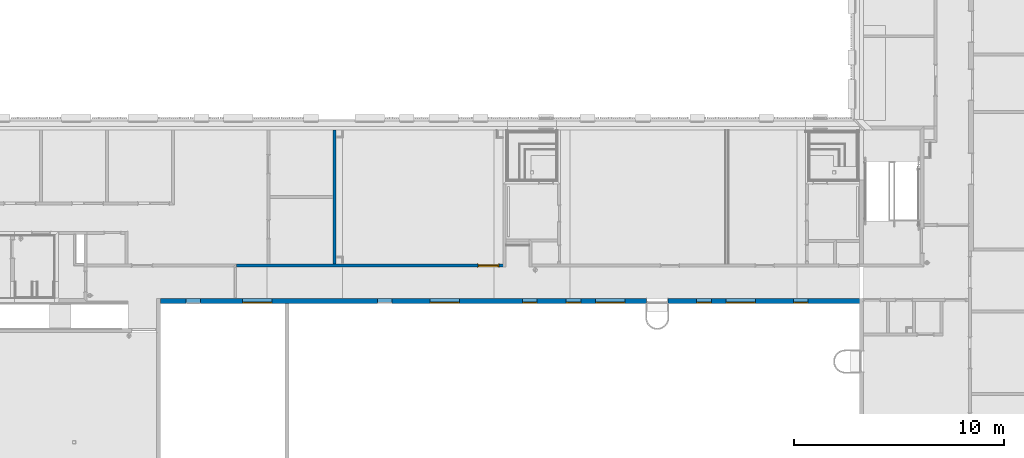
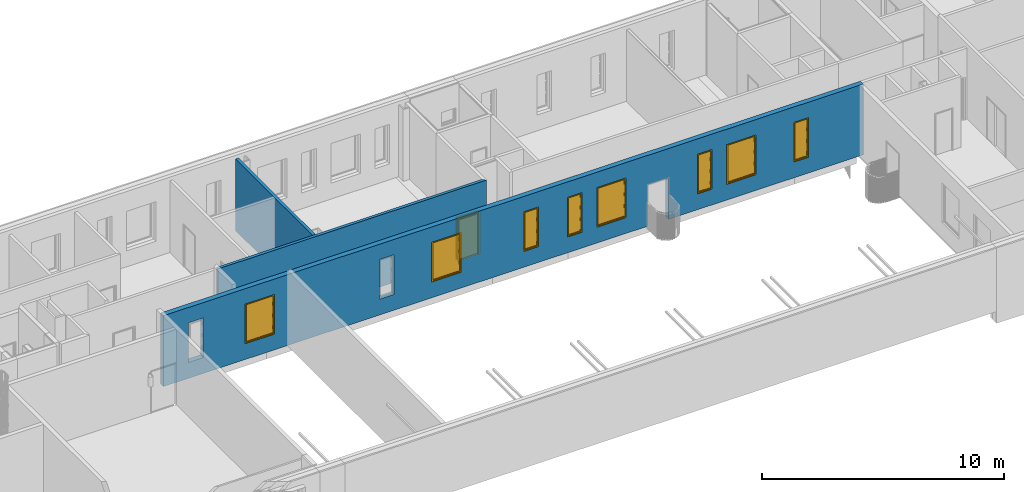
# One storey, part 6 of 100: 8 windows, 3 walls, 1 door, 12 openings.
"""IFC2X3 building model written with IfcOpenShell, lengths in millimetres."""

import ifcopenshell
import ifcopenshell.guid

model = None  # the IFC model being written
_history = None  # IfcOwnerHistory: only IFC2X3 demands one
_inside = {}  # id of a spatial element -> (the spatial element, [elements in it])
_under = {}  # id of a project, library or spatial element -> (it, [spatial elements below it])
_declared = {}  # id of a project -> (the project, [libraries it declares])
_typed = {}  # id of a type object -> (the type object, [elements of that type])
_made_of = {}  # id of a material, layer set ... -> (it, [elements and type objects made of it])


def new_model(schema):
    """Start an empty IFC model of exactly this schema.

    Asked for "IFC4X3", IfcOpenShell would pick the latest addendum, in which some entities
    have other attributes; the version numbers below select the first issue.
    IFC2X3 requires an IfcOwnerHistory on every rooted entity: one is made here for all.
    """
    global model, _history
    if schema == "IFC4X3":
        model = ifcopenshell.file(schema_version=(4, 3, 0, 0))
    else:
        model = ifcopenshell.file(schema=schema)
    _inside.clear()
    _under.clear()
    _declared.clear()
    _typed.clear()
    _made_of.clear()
    _history = None
    if model.schema == "IFC2X3":
        org = make("IfcOrganization", Name="unknown")
        user = make(
            "IfcPersonAndOrganization",
            ThePerson=make("IfcPerson", FamilyName="unknown"),
            TheOrganization=org,
        )
        app = make(
            "IfcApplication",
            ApplicationDeveloper=org,
            Version="unknown",
            ApplicationFullName="unknown",
            ApplicationIdentifier="unknown",
        )
        _history = make(
            "IfcOwnerHistory",
            OwningUser=user,
            OwningApplication=app,
            ChangeAction="ADDED",
            CreationDate=0,
        )
    return model


def make(cls, **values):
    """One entity of the class cls with the attributes given. An attribute that is None is left unset."""
    return model.create_entity(
        cls, **{name: value for name, value in values.items() if value is not None}
    )


def entity(cls, *values):
    """Any entity or typed value of the class cls, its attributes in the order of the schema. None: left unset."""
    e = model.create_entity(cls)
    for i, value in enumerate(values):
        if value is not None:
            e[i] = value
    return e


def rooted(cls, **values):
    """An entity with a GlobalId (a new one), such as an element, a storey or a relation."""
    return make(cls, GlobalId=ifcopenshell.guid.new(), OwnerHistory=_history, **values)


def si_unit(unit_type, name, prefix=None):
    """IfcSIUnit, for example si_unit("LENGTHUNIT", "METRE", prefix="MILLI")."""
    return make("IfcSIUnit", UnitType=unit_type, Prefix=prefix, Name=name)


def converted_unit(unit_type, name, factor, base, dimensions=None, offset=None):
    """IfcConversionBasedUnit, such as the inch: factor (a typed value) times the base unit."""
    return make(
        "IfcConversionBasedUnit"
        if offset is None
        else "IfcConversionBasedUnitWithOffset",
        ConversionOffset=offset,
        Dimensions=None
        if dimensions is None
        else entity("IfcDimensionalExponents", *dimensions),
        UnitType=unit_type,
        Name=name,
        ConversionFactor=make(
            "IfcMeasureWithUnit", ValueComponent=factor, UnitComponent=base
        ),
    )


def derived_unit(unit_type, elements):
    """IfcDerivedUnit: a product of units, each with its exponent."""
    return make(
        "IfcDerivedUnit",
        Elements=[
            make("IfcDerivedUnitElement", Unit=unit, Exponent=power)
            for unit, power in elements
        ],
        UnitType=unit_type,
    )


def money_unit(currency):
    """IfcMonetaryUnit."""
    return make("IfcMonetaryUnit", Currency=currency)


def assignment(units):
    """IfcUnitAssignment: the units of a project."""
    return None if units is None else make("IfcUnitAssignment", Units=units)


def point(xyz):
    """IfcCartesianPoint."""
    return None if xyz is None else make("IfcCartesianPoint", Coordinates=xyz)


def direction(xyz):
    """IfcDirection."""
    return None if xyz is None else make("IfcDirection", DirectionRatios=xyz)


def frame(location, z_axis=None, x_axis=None):
    """IfcAxis2Placement3D, a coordinate frame: its origin and axes. An axis left out is left unset."""
    return make(
        "IfcAxis2Placement3D",
        Location=point(location),
        Axis=direction(z_axis),
        RefDirection=direction(x_axis),
    )


def frame_2d(location, x_axis=None):
    """IfcAxis2Placement2D, a coordinate frame in the plane: its origin and x axis."""
    return make(
        "IfcAxis2Placement2D", Location=point(location), RefDirection=direction(x_axis)
    )


def origin_with_axes():
    """The frame at (0, 0, 0) with the z axis (0, 0, 1) and the x axis (1, 0, 0) written out."""
    return frame((0.0, 0.0, 0.0), z_axis=(0.0, 0.0, 1.0), x_axis=(1.0, 0.0, 0.0))


def origin_2d_with_axis():
    """The frame at (0, 0) in the plane with the x axis (1, 0) written out."""
    return frame_2d((0.0, 0.0), x_axis=(1.0, 0.0))


def place(relative_to, where):
    """IfcLocalPlacement: puts the frame where relative to a parent placement (None: the world)."""
    return make(
        "IfcLocalPlacement", PlacementRelTo=relative_to, RelativePlacement=where
    )


def context(
    kind, dimensions, precision=None, world=None, true_north=None, identifier=None
):
    """IfcGeometricRepresentationContext, for example the 3D "Model" context."""
    return make(
        "IfcGeometricRepresentationContext",
        ContextIdentifier=identifier,
        ContextType=kind,
        CoordinateSpaceDimension=dimensions,
        Precision=precision,
        WorldCoordinateSystem=world,
        TrueNorth=true_north,
    )


def subcontext(parent, identifier, kind, view, scale=None):
    """IfcGeometricRepresentationSubContext, for example "Body" below "Model"."""
    return make(
        "IfcGeometricRepresentationSubContext",
        ContextIdentifier=identifier,
        ContextType=kind,
        ParentContext=parent,
        TargetScale=scale,
        TargetView=view,
    )


def project(units=None, contexts=None):
    """IfcProject with its units and contexts."""
    return rooted(
        "IfcProject",
        Name="project",
        RepresentationContexts=contexts,
        UnitsInContext=assignment(units),
    )


def spatial(cls, under=None, at=None, **own):
    """A site, building, storey or space (cls), placed at a placement, below another one or the project."""
    s = rooted(cls, ObjectPlacement=at, **own)
    if under is not None:
        _under.setdefault(under.id(), (under, []))[1].append(s)
    return s


def polyline(points):
    """IfcPolyline through the points."""
    return make("IfcPolyline", Points=[point(p) for p in points])


def profile(cls, at=None, kind="AREA", **sizes):
    """A parametric profile (cls). Its sizes go by their IFC names, for example OverallWidth=200.0."""
    return make(cls, ProfileType=kind, Position=at, **sizes)


def rectangle(**sizes):
    """IfcRectangleProfileDef."""
    return profile("IfcRectangleProfileDef", **sizes)


def outline(outer, holes=None, kind="AREA"):
    """IfcArbitraryClosedProfileDef: a profile drawn as a closed curve; with holes, ...WithVoids."""
    if holes is None:
        return make("IfcArbitraryClosedProfileDef", ProfileType=kind, OuterCurve=outer)
    return make(
        "IfcArbitraryProfileDefWithVoids",
        ProfileType=kind,
        OuterCurve=outer,
        InnerCurves=holes,
    )


def extrude(swept, where, along, depth):
    """IfcExtrudedAreaSolid: the profile swept, set in the frame where, extruded along a direction by depth."""
    return make(
        "IfcExtrudedAreaSolid",
        SweptArea=swept,
        Position=where,
        ExtrudedDirection=direction(along),
        Depth=depth,
    )


def faces_of(points, faces, orient=None, outer=None):
    """IfcFace entities. A face is a list of loops; a loop is a list of indices into points, from 0.

    orient and outer hold one flag for each loop. By default every Orientation is true, the
    first loop of a face is its IfcFaceOuterBound and the others are IfcFaceBound.
    """
    made = []
    for i, loops in enumerate(faces):
        bounds = []
        for j, loop in enumerate(loops):
            is_outer = j == 0 if outer is None else outer[i][j]
            bounds.append(
                make(
                    "IfcFaceOuterBound" if is_outer else "IfcFaceBound",
                    Bound=make("IfcPolyLoop", Polygon=[points[k] for k in loop]),
                    Orientation=True if orient is None else orient[i][j],
                )
            )
        made.append(make("IfcFace", Bounds=bounds))
    return made


def open_shell(faces, orient=None, outer=None):
    """The faces of one IfcOpenShell. surface_model builds it on its shared points."""
    return ("IfcOpenShell", faces, orient, outer)


def faceted_brep(points, faces, orient=None, outer=None, voids=None):
    """IfcFacetedBrep: a solid bounded by flat faces; with voids (closed shells), ...WithVoids."""
    shared = [point(p) for p in points]
    hull = make("IfcClosedShell", CfsFaces=faces_of(shared, faces, orient, outer))
    if voids is None:
        return make("IfcFacetedBrep", Outer=hull)
    return make(
        "IfcFacetedBrepWithVoids",
        Outer=hull,
        Voids=[
            make(cls, CfsFaces=faces_of(shared, fs, o, b)) for cls, fs, o, b in voids
        ],
    )


def surface_model(cls, points, shells):
    """IfcFaceBasedSurfaceModel or IfcShellBasedSurfaceModel (cls): surfaces that need not close."""
    shared = [point(p) for p in points]
    made = [make(c, CfsFaces=faces_of(shared, fs, o, b)) for c, fs, o, b in shells]
    if cls == "IfcFaceBasedSurfaceModel":
        return make(cls, FbsmFaces=made)
    return make(cls, SbsmBoundary=made)


def shape(context_of_items, identifier, shape_type, items):
    """IfcShapeRepresentation: the items that make up one representation, for example the "Body"."""
    return make(
        "IfcShapeRepresentation",
        ContextOfItems=context_of_items,
        RepresentationIdentifier=identifier,
        RepresentationType=shape_type,
        Items=items,
    )


def source(mapping_origin, context_of_items, identifier, shape_type, items):
    """IfcRepresentationMap: a shape defined once, which mapped items show again and again."""
    return make(
        "IfcRepresentationMap",
        MappingOrigin=mapping_origin,
        MappedRepresentation=shape(context_of_items, identifier, shape_type, items),
    )


def transform(
    local_origin,
    x_axis=None,
    y_axis=None,
    z_axis=None,
    scale=None,
    scale2=None,
    scale3=None,
    uniform=True,
):
    """IfcCartesianTransformationOperator3D, or its non-uniform kind. x_axis, y_axis, z_axis: its Axis1, 2, 3."""
    if uniform:
        return make(
            "IfcCartesianTransformationOperator3D",
            Axis1=direction(x_axis),
            Axis2=direction(y_axis),
            LocalOrigin=point(local_origin),
            Scale=scale,
            Axis3=direction(z_axis),
        )
    return make(
        "IfcCartesianTransformationOperator3DnonUniform",
        Axis1=direction(x_axis),
        Axis2=direction(y_axis),
        LocalOrigin=point(local_origin),
        Scale=scale,
        Axis3=direction(z_axis),
        Scale2=scale2,
        Scale3=scale3,
    )


def mapped(mapping_source, mapping_target):
    """IfcMappedItem: shows the shape of a source again, moved by a transform."""
    return make(
        "IfcMappedItem", MappingSource=mapping_source, MappingTarget=mapping_target
    )


def material(Name=None, Category=None):
    """IfcMaterial."""
    return make("IfcMaterial", Name=Name, Category=Category)


def layer(
    of_material, thickness, ventilated=None, Name=None, Category=None, Priority=None
):
    """IfcMaterialLayer: one layer of a wall or slab, of a material (None: an air gap)."""
    return make(
        "IfcMaterialLayer",
        Material=of_material,
        LayerThickness=thickness,
        IsVentilated=ventilated,
        Name=Name,
        Category=Category,
        Priority=Priority,
    )


def layer_set(layers, Name=None):
    """IfcMaterialLayerSet."""
    return make("IfcMaterialLayerSet", MaterialLayers=layers, LayerSetName=Name)


def layer_usage(for_layer_set, set_direction, sense, offset, extent=None):
    """IfcMaterialLayerSetUsage: how a layer set lies in its element."""
    return make(
        "IfcMaterialLayerSetUsage",
        ForLayerSet=for_layer_set,
        LayerSetDirection=set_direction,
        DirectionSense=sense,
        OffsetFromReferenceLine=offset,
        ReferenceExtent=extent,
    )


def made_of(thing, what):
    """Note that an element or type object is made of a material, layer set ...; save() writes the relation."""
    if what is not None:
        _made_of.setdefault(what.id(), (what, []))[1].append(thing)
    return thing


def type_object(cls, material=None, **own):
    """A type object (cls), such as IfcWallType, which elements share."""
    return made_of(rooted(cls, **own), material)


def element(
    cls,
    number,
    at=None,
    inside=None,
    cuts=None,
    type_object=None,
    material=None,
    context=None,
    identifier="Body",
    shape_type=None,
    held_by="IfcProductDefinitionShape",
    body=None,
    shapes=None,
    **own,
):
    """One element of the class cls, such as IfcWall. Its Tag is "e" and its number.

    at: its placement. inside: the storey or other place that contains it. cuts: it is an
    opening in that element (IfcRelVoidsElement). A single representation is given by context,
    identifier, shape_type and body (its items); several are given by shapes. held_by: the class
    of the entity that holds the representations. save() writes the other relations.
    """
    e = rooted(cls, Tag="e%d" % number, ObjectPlacement=at, **own)
    if body is not None:
        shapes = [shape(context, identifier, shape_type, body)]
    if shapes is not None:
        e.Representation = make(held_by, Representations=shapes)
    if inside is not None:
        _inside.setdefault(inside.id(), (inside, []))[1].append(e)
    if cuts is not None:
        rooted(
            "IfcRelVoidsElement", RelatingBuildingElement=cuts, RelatedOpeningElement=e
        )
    if type_object is not None:
        _typed.setdefault(type_object.id(), (type_object, []))[1].append(e)
    return made_of(e, material)


def fill(opening, filler):
    """IfcRelFillsElement: the door or window that sits in an opening."""
    return rooted(
        "IfcRelFillsElement",
        RelatingOpeningElement=opening,
        RelatedBuildingElement=filler,
    )


def aggregate(whole, parts):
    """IfcRelAggregates: a whole, such as a stair, and the parts it consists of."""
    return rooted("IfcRelAggregates", RelatingObject=whole, RelatedObjects=parts)


def save(model, path):
    """Write the relations noted so far, then the file.

    IfcRelAggregates (storeys below a building ...), IfcRelContainedInSpatialStructure (elements
    in a storey), IfcRelDefinesByType, IfcRelAssociatesMaterial and IfcRelDeclares: one each for
    every whole, place, type object, material and project.
    """
    for whole, parts in _under.values():
        aggregate(whole, parts)
    for where, things in _inside.values():
        rooted(
            "IfcRelContainedInSpatialStructure",
            RelatedElements=things,
            RelatingStructure=where,
        )
    for kind, things in _typed.values():
        rooted("IfcRelDefinesByType", RelatedObjects=things, RelatingType=kind)
    for what, things in _made_of.values():
        rooted("IfcRelAssociatesMaterial", RelatedObjects=things, RelatingMaterial=what)
    for by, libraries in _declared.values():
        rooted("IfcRelDeclares", RelatingContext=by, RelatedDefinitions=libraries)
    model.write(path)


model = new_model("IFC2X3")

# Units and contexts
model_context = context("Model", 3, precision=0.01, world=origin_with_axes(), true_north=direction((0.0, 1.0)))
body_context = subcontext(model_context, "Body", "Model", "MODEL_VIEW")
ifc_project = project(units=[si_unit("LENGTHUNIT", "METRE", prefix="MILLI"), si_unit("AREAUNIT", "SQUARE_METRE"), si_unit("VOLUMEUNIT", "CUBIC_METRE"), converted_unit("PLANEANGLEUNIT", "DEGREE", entity("IfcPlaneAngleMeasure", 0.0174532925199), si_unit("PLANEANGLEUNIT", "RADIAN"), dimensions=[0, 0, 0, 0, 0, 0, 0]), si_unit("SOLIDANGLEUNIT", "STERADIAN"), money_unit("EUR"), converted_unit("TIMEUNIT", "Year", entity("IfcTimeMeasure", 31556926.0), si_unit("TIMEUNIT", "SECOND"), dimensions=[0, 0, 1, 0, 0, 0, 0]), si_unit("MASSUNIT", "GRAM", prefix="KILO"), si_unit("THERMODYNAMICTEMPERATUREUNIT", "DEGREE_CELSIUS"), si_unit("LUMINOUSINTENSITYUNIT", "LUMEN"), si_unit("ENERGYUNIT", "JOULE", prefix="MEGA"), derived_unit("THERMALCONDUCTANCEUNIT", [(si_unit("POWERUNIT", "WATT"), 1), (si_unit("LENGTHUNIT", "METRE"), -1), (si_unit("THERMODYNAMICTEMPERATUREUNIT", "KELVIN"), -1)]), derived_unit("SPECIFICHEATCAPACITYUNIT", [(si_unit("ENERGYUNIT", "JOULE"), 1), (si_unit("MASSUNIT", "GRAM", prefix="KILO"), -1), (si_unit("THERMODYNAMICTEMPERATUREUNIT", "KELVIN"), -1)]), derived_unit("MASSDENSITYUNIT", [(si_unit("MASSUNIT", "GRAM", prefix="KILO"), 1), (si_unit("VOLUMEUNIT", "CUBIC_METRE"), -1)])], contexts=[model_context])

# Site, building, storey
site_placement = place(None, origin_with_axes())
site = spatial("IfcSite", under=ifc_project, at=site_placement, Name="Politse- ja Piirivalveameti ning Päästeameti ühishoone", CompositionType="ELEMENT")
building_placement = place(site_placement, origin_with_axes())
building = spatial("IfcBuilding", under=site, at=building_placement, Name="Politse- ja Piirivalveameti ning Päästeameti ühishoone", CompositionType="ELEMENT")
storey_placement = place(building_placement, frame((0.0, 0.0, 3800.0), z_axis=(0.0, 0.0, 1.0), x_axis=(1.0, 0.0, 0.0)))
storey = spatial("IfcBuildingStorey", under=building, at=storey_placement, Name="Teine korrus", CompositionType="ELEMENT", Elevation=3800.0)

# Wall, openings, windows
ifc_material = material(Name="KON-05_Betoon Plokk - Konstuktsioon")
ifc_layer_1 = layer(ifc_material, 240.0, ventilated="UNKNOWN")
ifc_layer_set_1 = layer_set([ifc_layer_1], Name="SS-04_Sisesein 240")
ifc_layer_usage_1 = layer_usage(ifc_layer_set_1, "AXIS2", "POSITIVE", -240.0)
wall_type_1 = type_object("IfcWallType", Name="SS-04_Sisesein 240 240", PredefinedType="NOTDEFINED")
wall_1_placement = place(storey_placement, frame((26759.7008828, 13000.0198611, 0.0), z_axis=(0.0, 0.0, 1.0), x_axis=(1.0, 0.0, 0.0)))
wall_1 = element("IfcWallStandardCase", 1, at=wall_1_placement, inside=storey, type_object=wall_type_1, material=ifc_layer_usage_1, Name="SS-04", context=body_context, shape_type="SweptSolid", body=[
    extrude(outline(polyline([(0.0, -240.0), (33400.851029, -240.0), (33400.851029, 0.0), (0.0, 0.0), (0.0, -240.0)])), origin_with_axes(), (0.0, 0.0, 1.0), 3575.0),
])
opening_1_placement = place(wall_1_placement, frame((1549.54610995, 0.0, 800.0), z_axis=(0.0, 0.0, 1.0), x_axis=(1.0, 0.0, 0.0)))
element("IfcOpeningElement", 2, at=opening_1_placement, cuts=wall_1, Name="TA-01", context=body_context, shape_type="SweptSolid", body=[
    extrude(rectangle(XDim=700.0, YDim=2000.0, at=origin_2d_with_axis()), frame((0.0, 240.0, 1000.0), z_axis=(0.0, 1.0, 0.0), x_axis=(1.0, 0.0, 0.0)), (0.0, 0.0, -1.0), 720.0),
])
opening_2_placement = place(wall_1_placement, frame((4599.46172748, 0.0, 800.0), z_axis=(0.0, 0.0, 1.0), x_axis=(1.0, 0.0, 0.0)))
opening_2 = element("IfcOpeningElement", 3, at=opening_2_placement, cuts=wall_1, Name="TA-02", context=body_context, shape_type="SweptSolid", body=[
    extrude(rectangle(XDim=1400.0, YDim=2000.0, at=origin_2d_with_axis()), frame((0.0, 240.0, 1000.0), z_axis=(0.0, 1.0, 0.0), x_axis=(-1.0, 0.0, 0.0)), (0.0, 0.0, -1.0), 720.0),
])
opening_3_placement = place(wall_1_placement, frame((10649.913827, 0.0, 800.0), z_axis=(0.0, 0.0, 1.0), x_axis=(1.0, 0.0, 0.0)))
element("IfcOpeningElement", 4, at=opening_3_placement, cuts=wall_1, Name="TA-01", context=body_context, shape_type="SweptSolid", body=[
    extrude(rectangle(XDim=700.0, YDim=2000.0, at=origin_2d_with_axis()), frame((0.0, 240.0, 1000.0), z_axis=(0.0, 1.0, 0.0), x_axis=(-1.0, 0.0, 0.0)), (0.0, 0.0, -1.0), 720.0),
])
opening_4_placement = place(wall_1_placement, frame((13499.54611, 0.0, 800.0), z_axis=(0.0, 0.0, 1.0), x_axis=(1.0, 0.0, 0.0)))
opening_4 = element("IfcOpeningElement", 5, at=opening_4_placement, cuts=wall_1, Name="TA-02", context=body_context, shape_type="SweptSolid", body=[
    extrude(rectangle(XDim=1400.0, YDim=2000.0, at=origin_2d_with_axis()), frame((0.0, 240.0, 1000.0), z_axis=(0.0, 1.0, 0.0), x_axis=(-1.0, 0.0, 0.0)), (0.0, 0.0, -1.0), 720.0),
])
opening_5_placement = place(wall_1_placement, frame((17549.9734869, 0.0, 800.0), z_axis=(0.0, 0.0, 1.0), x_axis=(1.0, 0.0, 0.0)))
opening_5 = element("IfcOpeningElement", 6, at=opening_5_placement, cuts=wall_1, Name="TA-01", context=body_context, shape_type="SweptSolid", body=[
    extrude(rectangle(XDim=700.0, YDim=2000.0, at=origin_2d_with_axis()), frame((0.0, 240.0, 1000.0), z_axis=(0.0, -1.0, 0.0), x_axis=(1.0, 0.0, 0.0)), (0.0, 0.0, 1.0), 720.0),
])
opening_6_placement = place(wall_1_placement, frame((19626.54611, 0.0, 800.0), z_axis=(0.0, 0.0, 1.0), x_axis=(1.0, 0.0, 0.0)))
opening_6 = element("IfcOpeningElement", 7, at=opening_6_placement, cuts=wall_1, Name="TA-01", context=body_context, shape_type="SweptSolid", body=[
    extrude(rectangle(XDim=700.0, YDim=2000.0, at=origin_2d_with_axis()), frame((0.0, 240.0, 1000.0), z_axis=(0.0, -1.0, 0.0), x_axis=(1.0, 0.0, 0.0)), (0.0, 0.0, 1.0), 720.0),
])
opening_7_placement = place(wall_1_placement, frame((21376.54611, 0.0, 800.0), z_axis=(0.0, 0.0, 1.0), x_axis=(1.0, 0.0, 0.0)))
opening_7 = element("IfcOpeningElement", 8, at=opening_7_placement, cuts=wall_1, Name="TA-02", context=body_context, shape_type="SweptSolid", body=[
    extrude(rectangle(XDim=1400.0, YDim=2000.0, at=origin_2d_with_axis()), frame((0.0, 240.0, 1000.0), z_axis=(0.0, 1.0, 0.0), x_axis=(-1.0, 0.0, 0.0)), (0.0, 0.0, -1.0), 720.0),
])
opening_8_placement = place(wall_1_placement, frame((27576.8440012, 0.0, 800.0), z_axis=(0.0, 0.0, 1.0), x_axis=(1.0, 0.0, 0.0)))
opening_8 = element("IfcOpeningElement", 9, at=opening_8_placement, cuts=wall_1, Name="TA-02", context=body_context, shape_type="SweptSolid", body=[
    extrude(rectangle(XDim=1400.0, YDim=2000.0, at=origin_2d_with_axis()), frame((0.0, 240.0, 1000.0), z_axis=(0.0, 1.0, 0.0), x_axis=(-1.0, 0.0, 0.0)), (0.0, 0.0, -1.0), 720.0),
])
opening_9_placement = place(wall_1_placement, frame((25826.8440012, 0.0, 800.0), z_axis=(0.0, 0.0, 1.0), x_axis=(1.0, 0.0, 0.0)))
opening_9 = element("IfcOpeningElement", 10, at=opening_9_placement, cuts=wall_1, Name="TA-01", context=body_context, shape_type="SweptSolid", body=[
    extrude(rectangle(XDim=700.0, YDim=2000.0, at=origin_2d_with_axis()), frame((0.0, 240.0, 1000.0), z_axis=(0.0, -1.0, 0.0), x_axis=(1.0, 0.0, 0.0)), (0.0, 0.0, 1.0), 720.0),
])
opening_10_placement = place(wall_1_placement, frame((30426.8440012, 0.0, 800.0), z_axis=(0.0, 0.0, 1.0), x_axis=(1.0, 0.0, 0.0)))
opening_10 = element("IfcOpeningElement", 11, at=opening_10_placement, cuts=wall_1, Name="TA-01", context=body_context, shape_type="SweptSolid", body=[
    extrude(rectangle(XDim=700.0, YDim=2000.0, at=origin_2d_with_axis()), frame((0.0, 240.0, 1000.0), z_axis=(0.0, -1.0, 0.0), x_axis=(1.0, 0.0, 0.0)), (0.0, 0.0, 1.0), 720.0),
])
opening_11_placement = place(wall_1_placement, frame((23602.5665527, 0.0, 0.0), z_axis=(0.0, 0.0, 1.0), x_axis=(1.0, 0.0, 0.0)))
element("IfcOpeningElement", 12, at=opening_11_placement, cuts=wall_1, Name="TU-01-9", context=body_context, shape_type="SweptSolid", body=[
    extrude(rectangle(XDim=1000.0, YDim=2100.0, at=origin_2d_with_axis()), frame((0.0, 240.0, 1050.0), z_axis=(0.0, 1.0, 0.0), x_axis=(1.0, 0.0, 0.0)), (0.0, 0.0, -1.0), 720.0),
    extrude(rectangle(XDim=1074.0, YDim=2137.0, at=origin_2d_with_axis()), frame((0.0, 0.0, 1068.5), z_axis=(0.0, 1.0, 0.0), x_axis=(1.0, 0.0, 0.0)), (0.0, 0.0, 1.0), 240.0),
    extrude(rectangle(XDim=1074.0, YDim=2137.0, at=origin_2d_with_axis()), frame((0.0, -240.0, 1068.5), z_axis=(0.0, -1.0, 0.0), x_axis=(1.0, 0.0, 0.0)), (0.0, 0.0, 1.0), 240.0),
])
window_style = type_object("IfcWindowStyle", Name="Window 23", ConstructionType="NOTDEFINED", OperationType="SINGLE_PANEL", ParameterTakesPrecedence=False, Sizeable=False)
shared_shape_1 = source(origin_with_axes(), body_context, "Body", "SurfaceModel", [
    faceted_brep([(675.0, 0.0, 1950.0), (675.0, -25.0, 1950.0), (650.0, -25.0, 1950.0), (650.0, -50.0, 1950.0), (700.0, -50.0, 1950.0), (700.0, 0.0, 1950.0), (675.0, 0.0, 50.0), (675.0, -25.0, 50.0), (650.0, -25.0, 50.0), (650.0, -50.0, 50.0), (700.0, -50.0, 50.0), (700.0, 0.0, 50.0)], [[[0, 1, 2, 3, 4, 5]], [[1, 0, 6, 7]], [[8, 2, 1, 7]], [[2, 8, 9, 3]], [[4, 3, 9, 10]], [[5, 4, 10, 11]], [[6, 0, 5, 11]], [[7, 6, 11, 10, 9, 8]]]),
    faceted_brep([(-650.0, -25.0, 1950.0), (-675.0, -25.0, 1950.0), (-675.0, 0.0, 1950.0), (-700.0, 0.0, 1950.0), (-700.0, -50.0, 1950.0), (-650.0, -50.0, 1950.0), (-650.0, -25.0, 50.0), (-675.0, -25.0, 50.0), (-675.0, 0.0, 50.0), (-700.0, 0.0, 50.0), (-700.0, -50.0, 50.0), (-650.0, -50.0, 50.0)], [[[0, 1, 2, 3, 4, 5]], [[1, 0, 6, 7]], [[8, 2, 1, 7]], [[2, 8, 9, 3]], [[9, 10, 4, 3]], [[10, 11, 5, 4]], [[6, 0, 5, 11]], [[7, 6, 11, 10, 9, 8]]]),
    faceted_brep([(-650.0, -25.0, 50.0), (-675.0, -25.0, 50.0), (-675.0, 0.0, 50.0), (-700.0, 0.0, 50.0), (-700.0, -50.0, 50.0), (-650.0, -50.0, 50.0), (650.0, -25.0, 50.0), (675.0, -25.0, 50.0), (675.0, -25.0, 25.0), (-675.0, -25.0, 25.0), (-675.0, 0.0, 25.0), (675.0, 0.0, 25.0), (675.0, 0.0, 50.0), (700.0, 0.0, 50.0), (700.0, 0.0, 0.0), (-700.0, 0.0, 0.0), (-700.0, -50.0, 0.0), (700.0, -50.0, 50.0), (650.0, -50.0, 50.0), (700.0, -50.0, 0.0)], [[[0, 1, 2, 3, 4, 5]], [[1, 0, 6, 7, 8, 9]], [[10, 2, 1, 9]], [[11, 12, 13, 14, 15, 3, 2, 10]], [[15, 16, 4, 3]], [[17, 18, 5, 4, 16, 19]], [[6, 0, 5, 18]], [[7, 6, 18, 17, 13, 12]], [[7, 12, 11, 8]], [[11, 10, 9, 8]], [[13, 17, 19, 14]], [[14, 19, 16, 15]]]),
    faceted_brep([(675.0, 0.0, 1950.0), (675.0, 0.0, 1975.0), (-675.0, 0.0, 1975.0), (-675.0, 0.0, 1950.0), (-700.0, 0.0, 1950.0), (-700.0, 0.0, 2000.0), (700.0, 0.0, 2000.0), (700.0, 0.0, 1950.0), (675.0, -25.0, 1950.0), (675.0, -25.0, 1975.0), (-675.0, -25.0, 1975.0), (-675.0, -25.0, 1950.0), (-650.0, -25.0, 1950.0), (-650.0, -50.0, 1950.0), (-700.0, -50.0, 1950.0), (-700.0, -50.0, 2000.0), (700.0, -50.0, 2000.0), (700.0, -50.0, 1950.0), (650.0, -50.0, 1950.0), (650.0, -25.0, 1950.0)], [[[0, 1, 2, 3, 4, 5, 6, 7]], [[1, 0, 8, 9]], [[2, 1, 9, 10]], [[3, 2, 10, 11]], [[11, 12, 13, 14, 4, 3]], [[4, 14, 15, 5]], [[5, 15, 16, 6]], [[6, 16, 17, 7]], [[8, 0, 7, 17, 18, 19]], [[12, 11, 10, 9, 8, 19]], [[12, 19, 18, 13]], [[14, 13, 18, 17, 16, 15]]]),
    faceted_brep([(625.0, -25.0, 1925.0), (675.0, -25.0, 1925.0), (675.0, 25.0, 1925.0), (625.0, 25.0, 1925.0), (625.0, -25.0, 75.0), (675.0, -25.0, 75.0), (675.0, 25.0, 75.0), (625.0, 25.0, 75.0)], [[[0, 1, 2, 3]], [[0, 4, 5, 1]], [[1, 5, 6, 2]], [[3, 2, 6, 7]], [[4, 0, 3, 7]], [[5, 4, 7, 6]]]),
    faceted_brep([(-625.0, -25.0, 75.0), (-675.0, -25.0, 75.0), (-675.0, 25.0, 75.0), (-625.0, 25.0, 75.0), (-625.0, -25.0, 1925.0), (-675.0, -25.0, 1925.0), (-675.0, 25.0, 1925.0), (-625.0, 25.0, 1925.0)], [[[0, 1, 2, 3]], [[0, 4, 5, 1]], [[1, 5, 6, 2]], [[3, 2, 6, 7]], [[4, 0, 3, 7]], [[5, 4, 7, 6]]]),
    faceted_brep([(-675.0, -25.0, 25.0), (-675.0, -25.0, 75.0), (-675.0, 25.0, 75.0), (-675.0, 25.0, 25.0), (675.0, -25.0, 25.0), (675.0, -25.0, 75.0), (625.0, -25.0, 75.0), (-625.0, -25.0, 75.0), (-625.0, 25.0, 75.0), (625.0, 25.0, 75.0), (675.0, 25.0, 75.0), (675.0, 25.0, 25.0)], [[[0, 1, 2, 3]], [[0, 4, 5, 6, 7, 1]], [[1, 7, 8, 2]], [[3, 2, 8, 9, 10, 11]], [[4, 0, 3, 11]], [[5, 4, 11, 10]], [[6, 5, 10, 9]], [[7, 6, 9, 8]]]),
    faceted_brep([(675.0, -25.0, 1975.0), (675.0, -25.0, 1925.0), (675.0, 25.0, 1925.0), (675.0, 25.0, 1975.0), (-675.0, -25.0, 1975.0), (-675.0, -25.0, 1925.0), (-625.0, -25.0, 1925.0), (625.0, -25.0, 1925.0), (625.0, 25.0, 1925.0), (-625.0, 25.0, 1925.0), (-675.0, 25.0, 1925.0), (-675.0, 25.0, 1975.0)], [[[0, 1, 2, 3]], [[0, 4, 5, 6, 7, 1]], [[1, 7, 8, 2]], [[3, 2, 8, 9, 10, 11]], [[4, 0, 3, 11]], [[5, 4, 11, 10]], [[6, 5, 10, 9]], [[7, 6, 9, 8]]]),
    surface_model("IfcShellBasedSurfaceModel", [(625.0, -10.0, 75.0), (625.0, -10.0, 1925.0), (-625.0, -10.0, 1925.0), (-625.0, -10.0, 75.0)], [open_shell([[[0, 1, 2, 3]]])]),
    surface_model("IfcShellBasedSurfaceModel", [(625.0, 10.0, 75.0), (-625.0, 10.0, 75.0), (-625.0, 10.0, 1925.0), (625.0, 10.0, 1925.0)], [open_shell([[[0, 1, 2, 3]]])]),
])
window_1_placement = place(opening_2_placement, frame((-700.0, 0.0, 0.0), z_axis=(0.0, 0.0, 1.0), x_axis=(1.0, 0.0, 0.0)))
window_1 = element("IfcWindow", 13, at=window_1_placement, inside=storey, type_object=window_style, Name="TA-02", ObjectType="WINDOW", OverallHeight=2000.0, OverallWidth=1400.0, context=body_context, shape_type="MappedRepresentation", body=[
    mapped(shared_shape_1, transform((700.0, -190.0, 0.0))),
])
fill(opening_2, window_1)
window_2_placement = place(opening_4_placement, frame((-700.0, 0.0, 0.0), z_axis=(0.0, 0.0, 1.0), x_axis=(1.0, 0.0, 0.0)))
window_2 = element("IfcWindow", 14, at=window_2_placement, inside=storey, type_object=window_style, Name="TA-02", ObjectType="WINDOW", OverallHeight=2000.0, OverallWidth=1400.0, context=body_context, shape_type="MappedRepresentation", body=[
    mapped(shared_shape_1, transform((700.0, -190.0, 0.0))),
])
fill(opening_4, window_2)
window_3_placement = place(opening_7_placement, frame((-700.0, 0.0, 0.0), z_axis=(0.0, 0.0, 1.0), x_axis=(1.0, 0.0, 0.0)))
window_3 = element("IfcWindow", 15, at=window_3_placement, inside=storey, type_object=window_style, Name="TA-02", ObjectType="WINDOW", OverallHeight=2000.0, OverallWidth=1400.0, context=body_context, shape_type="MappedRepresentation", body=[
    mapped(shared_shape_1, transform((700.0, -190.0, 0.0))),
])
fill(opening_7, window_3)
window_4_placement = place(opening_8_placement, frame((-700.0, 0.0, 0.0), z_axis=(0.0, 0.0, 1.0), x_axis=(1.0, 0.0, 0.0)))
window_4 = element("IfcWindow", 16, at=window_4_placement, inside=storey, type_object=window_style, Name="TA-02", ObjectType="WINDOW", OverallHeight=2000.0, OverallWidth=1400.0, context=body_context, shape_type="MappedRepresentation", body=[
    mapped(shared_shape_1, transform((700.0, -190.0, 0.0))),
])
fill(opening_8, window_4)
shared_shape_2 = source(origin_with_axes(), body_context, "Body", "SurfaceModel", [
    faceted_brep([(-325.0, 0.0, 1950.0), (-350.0, 0.0, 1950.0), (-350.0, -50.0, 1950.0), (-300.0, -50.0, 1950.0), (-300.0, -25.0, 1950.0), (-325.0, -25.0, 1950.0), (-325.0, 0.0, 50.0), (-350.0, 0.0, 50.0), (-350.0, -50.0, 50.0), (-300.0, -50.0, 50.0), (-300.0, -25.0, 50.0), (-325.0, -25.0, 50.0)], [[[0, 1, 2, 3, 4, 5]], [[6, 7, 1, 0]], [[1, 7, 8, 2]], [[2, 8, 9, 3]], [[4, 3, 9, 10]], [[10, 11, 5, 4]], [[5, 11, 6, 0]], [[11, 10, 9, 8, 7, 6]]]),
    faceted_brep([(300.0, -25.0, 1950.0), (300.0, -50.0, 1950.0), (350.0, -50.0, 1950.0), (350.0, 0.0, 1950.0), (325.0, 0.0, 1950.0), (325.0, -25.0, 1950.0), (300.0, -25.0, 50.0), (300.0, -50.0, 50.0), (350.0, -50.0, 50.0), (350.0, 0.0, 50.0), (325.0, 0.0, 50.0), (325.0, -25.0, 50.0)], [[[0, 1, 2, 3, 4, 5]], [[6, 7, 1, 0]], [[8, 2, 1, 7]], [[9, 3, 2, 8]], [[4, 3, 9, 10]], [[10, 11, 5, 4]], [[5, 11, 6, 0]], [[11, 10, 9, 8, 7, 6]]]),
    faceted_brep([(300.0, -25.0, 50.0), (300.0, -50.0, 50.0), (350.0, -50.0, 50.0), (350.0, 0.0, 50.0), (325.0, 0.0, 50.0), (325.0, -25.0, 50.0), (-300.0, -25.0, 50.0), (-300.0, -50.0, 50.0), (-350.0, -50.0, 50.0), (-350.0, -50.0, 0.0), (350.0, -50.0, 0.0), (350.0, 0.0, 0.0), (-325.0, 0.0, 25.0), (325.0, 0.0, 25.0), (-350.0, 0.0, 0.0), (-350.0, 0.0, 50.0), (-325.0, 0.0, 50.0), (325.0, -25.0, 25.0), (-325.0, -25.0, 25.0), (-325.0, -25.0, 50.0)], [[[0, 1, 2, 3, 4, 5]], [[6, 7, 1, 0]], [[8, 9, 10, 2, 1, 7]], [[11, 3, 2, 10]], [[12, 13, 4, 3, 11, 14, 15, 16]], [[13, 17, 5, 4]], [[5, 17, 18, 19, 6, 0]], [[19, 16, 15, 8, 7, 6]], [[15, 14, 9, 8]], [[14, 11, 10, 9]], [[12, 18, 17, 13]], [[19, 18, 12, 16]]]),
    faceted_brep([(-325.0, 0.0, 1950.0), (-350.0, 0.0, 1950.0), (-350.0, 0.0, 2000.0), (350.0, 0.0, 2000.0), (350.0, 0.0, 1950.0), (325.0, 0.0, 1950.0), (325.0, 0.0, 1975.0), (-325.0, 0.0, 1975.0), (-325.0, -25.0, 1950.0), (-300.0, -25.0, 1950.0), (-300.0, -50.0, 1950.0), (-350.0, -50.0, 1950.0), (-350.0, -50.0, 2000.0), (350.0, -50.0, 2000.0), (350.0, -50.0, 1950.0), (325.0, -25.0, 1950.0), (300.0, -50.0, 1950.0), (300.0, -25.0, 1950.0), (325.0, -25.0, 1975.0), (-325.0, -25.0, 1975.0)], [[[0, 1, 2, 3, 4, 5, 6, 7]], [[8, 9, 10, 11, 1, 0]], [[2, 1, 11, 12]], [[3, 2, 12, 13]], [[4, 3, 13, 14]], [[15, 5, 4, 14, 16, 17]], [[5, 15, 18, 6]], [[6, 18, 19, 7]], [[7, 19, 8, 0]], [[17, 9, 8, 19, 18, 15]], [[17, 16, 10, 9]], [[14, 13, 12, 11, 10, 16]]]),
    faceted_brep([(-275.0, -25.0, 1925.0), (-275.0, 25.0, 1925.0), (-325.0, 25.0, 1925.0), (-325.0, -25.0, 1925.0), (-275.0, -25.0, 75.0), (-275.0, 25.0, 75.0), (-325.0, 25.0, 75.0), (-325.0, -25.0, 75.0)], [[[0, 1, 2, 3]], [[4, 5, 1, 0]], [[1, 5, 6, 2]], [[3, 2, 6, 7]], [[0, 3, 7, 4]], [[7, 6, 5, 4]]]),
    faceted_brep([(275.0, -25.0, 75.0), (275.0, 25.0, 75.0), (325.0, 25.0, 75.0), (325.0, -25.0, 75.0), (275.0, -25.0, 1925.0), (275.0, 25.0, 1925.0), (325.0, 25.0, 1925.0), (325.0, -25.0, 1925.0)], [[[0, 1, 2, 3]], [[4, 5, 1, 0]], [[1, 5, 6, 2]], [[3, 2, 6, 7]], [[0, 3, 7, 4]], [[7, 6, 5, 4]]]),
    faceted_brep([(325.0, -25.0, 25.0), (325.0, 25.0, 25.0), (325.0, 25.0, 75.0), (325.0, -25.0, 75.0), (-325.0, -25.0, 25.0), (-325.0, 25.0, 25.0), (-325.0, 25.0, 75.0), (-275.0, 25.0, 75.0), (275.0, 25.0, 75.0), (275.0, -25.0, 75.0), (-275.0, -25.0, 75.0), (-325.0, -25.0, 75.0)], [[[0, 1, 2, 3]], [[4, 5, 1, 0]], [[1, 5, 6, 7, 8, 2]], [[3, 2, 8, 9]], [[0, 3, 9, 10, 11, 4]], [[11, 6, 5, 4]], [[10, 7, 6, 11]], [[9, 8, 7, 10]]]),
    faceted_brep([(-325.0, -25.0, 1975.0), (-325.0, 25.0, 1975.0), (-325.0, 25.0, 1925.0), (-325.0, -25.0, 1925.0), (325.0, -25.0, 1975.0), (325.0, 25.0, 1975.0), (325.0, 25.0, 1925.0), (275.0, 25.0, 1925.0), (-275.0, 25.0, 1925.0), (-275.0, -25.0, 1925.0), (275.0, -25.0, 1925.0), (325.0, -25.0, 1925.0)], [[[0, 1, 2, 3]], [[4, 5, 1, 0]], [[1, 5, 6, 7, 8, 2]], [[3, 2, 8, 9]], [[0, 3, 9, 10, 11, 4]], [[11, 6, 5, 4]], [[10, 7, 6, 11]], [[9, 8, 7, 10]]]),
    surface_model("IfcShellBasedSurfaceModel", [(-275.0, -10.0, 75.0), (275.0, -10.0, 75.0), (275.0, -10.0, 1925.0), (-275.0, -10.0, 1925.0)], [open_shell([[[0, 1, 2, 3]]])]),
    surface_model("IfcShellBasedSurfaceModel", [(-275.0, 10.0, 75.0), (-275.0, 10.0, 1925.0), (275.0, 10.0, 1925.0), (275.0, 10.0, 75.0)], [open_shell([[[0, 1, 2, 3]]])]),
])
window_5_placement = place(opening_5_placement, frame((-350.0, 0.0, 0.0), z_axis=(0.0, 0.0, 1.0), x_axis=(1.0, 0.0, 0.0)))
window_5 = element("IfcWindow", 17, at=window_5_placement, inside=storey, type_object=window_style, Name="TA-01", ObjectType="WINDOW", OverallHeight=2000.0, OverallWidth=700.0, context=body_context, shape_type="MappedRepresentation", body=[
    mapped(shared_shape_2, transform((350.0, -190.0, 0.0))),
])
fill(opening_5, window_5)
window_6_placement = place(opening_6_placement, frame((-350.0, 0.0, 0.0), z_axis=(0.0, 0.0, 1.0), x_axis=(1.0, 0.0, 0.0)))
window_6 = element("IfcWindow", 18, at=window_6_placement, inside=storey, type_object=window_style, Name="TA-01", ObjectType="WINDOW", OverallHeight=2000.0, OverallWidth=700.0, context=body_context, shape_type="MappedRepresentation", body=[
    mapped(shared_shape_2, transform((350.0, -190.0, 0.0))),
])
fill(opening_6, window_6)
window_7_placement = place(opening_9_placement, frame((-350.0, 0.0, 0.0), z_axis=(0.0, 0.0, 1.0), x_axis=(1.0, 0.0, 0.0)))
window_7 = element("IfcWindow", 19, at=window_7_placement, inside=storey, type_object=window_style, Name="TA-01", ObjectType="WINDOW", OverallHeight=2000.0, OverallWidth=700.0, context=body_context, shape_type="MappedRepresentation", body=[
    mapped(shared_shape_2, transform((350.0, -190.0, 0.0))),
])
fill(opening_9, window_7)
window_8_placement = place(opening_10_placement, frame((-350.0, 0.0, 0.0), z_axis=(0.0, 0.0, 1.0), x_axis=(1.0, 0.0, 0.0)))
window_8 = element("IfcWindow", 20, at=window_8_placement, inside=storey, type_object=window_style, Name="TA-01", ObjectType="WINDOW", OverallHeight=2000.0, OverallWidth=700.0, context=body_context, shape_type="MappedRepresentation", body=[
    mapped(shared_shape_2, transform((350.0, -190.0, 0.0))),
])
fill(opening_10, window_8)

# Wall
ifc_layer_2 = layer(ifc_material, 140.0, ventilated="UNKNOWN")
ifc_layer_set_2 = layer_set([ifc_layer_2], Name="SS-02_Sisesein 140")
ifc_layer_usage_2 = layer_usage(ifc_layer_set_2, "AXIS2", "POSITIVE", -70.0)
wall_type_2 = type_object("IfcWallType", Name="SS-02_Sisesein 140 140", PredefinedType="NOTDEFINED")
wall_2_placement = place(storey_placement, frame((35029.7100495, 20999.9520832, 0.0), z_axis=(0.0, 0.0, 1.0), x_axis=(0.0, -1.0, 0.0)))
element("IfcWallStandardCase", 21, at=wall_2_placement, inside=storey, type_object=wall_type_2, material=ifc_layer_usage_2, Name="SS-02", context=body_context, shape_type="SweptSolid", body=[
    extrude(outline(polyline([(-0.000693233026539, -70.0), (6359.9099304, -70.0), (6359.9099304, 70.0), (-0.000698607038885, 70.0), (-0.000693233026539, -70.0)])), origin_with_axes(), (0.0, 0.0, 1.0), 3620.0),
])

# Wall, opening, door
ifc_layer_usage_3 = layer_usage(ifc_layer_set_2, "AXIS2", "NEGATIVE", 140.0)
wall_3_placement = place(storey_placement, frame((30369.9035567, 14500.0421528, 0.0), z_axis=(0.0, 0.0, 1.0), x_axis=(1.0, 0.0, 0.0)))
wall_3 = element("IfcWallStandardCase", 22, at=wall_3_placement, inside=storey, type_object=wall_type_2, material=ifc_layer_usage_3, Name="SS-02", context=body_context, shape_type="SweptSolid", body=[
    extrude(outline(polyline([(0.0, 0.0), (12813.5079124, 0.0), (12673.5079124, 140.0), (0.0, 140.0), (0.0, 0.0)])), origin_with_axes(), (0.0, 0.0, 1.0), 3620.0),
])
opening_12_placement = place(wall_3_placement, frame((11964.0000835, 0.0, 0.0), z_axis=(0.0, 0.0, 1.0), x_axis=(1.0, 0.0, 0.0)))
opening_12 = element("IfcOpeningElement", 23, at=opening_12_placement, cuts=wall_3, Name="SU-01-2", context=body_context, shape_type="SweptSolid", body=[
    extrude(rectangle(XDim=1000.0, YDim=2100.0, at=origin_2d_with_axis()), frame((0.0, 140.0, 1050.0), z_axis=(0.0, -1.0, 0.0), x_axis=(1.0, 0.0, 0.0)), (0.0, 0.0, 1.0), 420.0),
    extrude(rectangle(XDim=1074.0, YDim=2137.0, at=origin_2d_with_axis()), frame((0.0, 140.0, 1068.5), z_axis=(0.0, -1.0, 0.0), x_axis=(1.0, 0.0, 0.0)), (0.0, 0.0, -1.0), 140.0),
    extrude(rectangle(XDim=1074.0, YDim=2137.0, at=origin_2d_with_axis()), frame((0.0, 0.0, 1068.5), z_axis=(0.0, 1.0, 0.0), x_axis=(1.0, 0.0, 0.0)), (0.0, 0.0, -1.0), 140.0),
])
door_style = type_object("IfcDoorStyle", Name="Door 23", ConstructionType="NOTDEFINED", OperationType="SINGLE_SWING_RIGHT", ParameterTakesPrecedence=False, Sizeable=False)
shared_shape_3 = source(origin_with_axes(), body_context, "Body", "Brep", [
    faceted_brep([(460.0, -115.0, 0.0), (460.0, -40.0, 0.0), (460.0, -40.0, 12.0), (460.0, -115.0, 12.0), (-460.0, -115.0, 0.0), (-460.0, -40.0, 0.0), (-472.0, -40.0, 0.0), (472.0, -40.0, 0.0), (472.0, -40.0, 12.0), (-472.0, -40.0, 12.0), (-460.0, -40.0, 12.0), (-460.0, -115.0, 12.0)], [[[0, 1, 2, 3]], [[0, 4, 5, 6, 7, 1]], [[1, 7, 8, 2]], [[3, 2, 8, 9, 10, 11]], [[4, 0, 3, 11]], [[5, 4, 11, 10]], [[6, 5, 10, 9]], [[7, 6, 9, 8]]]),
    faceted_brep([(-500.0, 0.0, 0.0), (-500.0, 25.0, 0.0), (-475.0, 25.0, 0.0), (-475.0, 0.0, 0.0), (-500.0, 0.0, 2100.0), (-500.0, 25.0, 2100.0), (-475.0, 25.0, 2075.0), (-475.0, 0.0, 2075.0)], [[[0, 1, 2, 3]], [[4, 5, 1, 0]], [[1, 5, 6, 2]], [[3, 2, 6, 7]], [[0, 3, 7, 4]], [[7, 6, 5, 4]]]),
    faceted_brep([(500.0, 0.0, 2100.0), (500.0, 25.0, 2100.0), (475.0, 25.0, 2075.0), (475.0, 0.0, 2075.0), (500.0, 0.0, 0.0), (500.0, 25.0, 0.0), (475.0, 25.0, 0.0), (475.0, 0.0, 0.0)], [[[0, 1, 2, 3]], [[4, 5, 1, 0]], [[1, 5, 6, 2]], [[3, 2, 6, 7]], [[0, 3, 7, 4]], [[7, 6, 5, 4]]]),
    faceted_brep([(-475.0, 0.0, 2075.0), (-475.0, 25.0, 2075.0), (475.0, 25.0, 2075.0), (475.0, 0.0, 2075.0), (-500.0, 0.0, 2100.0), (-500.0, 25.0, 2100.0), (500.0, 25.0, 2100.0), (500.0, 0.0, 2100.0)], [[[0, 1, 2, 3]], [[4, 5, 1, 0]], [[1, 5, 6, 2]], [[3, 2, 6, 7]], [[0, 3, 7, 4]], [[7, 6, 5, 4]]]),
    faceted_brep([(-537.0, 44.0, 0.0), (-487.0, 44.0, 0.0), (-487.0, 25.0, 0.0), (-537.0, 25.0, 0.0), (-537.0, 44.0, 2137.0), (-487.0, 44.0, 2087.0), (-487.0, 25.0, 2087.0), (-537.0, 25.0, 2137.0)], [[[0, 1, 2, 3]], [[0, 4, 5, 1]], [[1, 5, 6, 2]], [[3, 2, 6, 7]], [[4, 0, 3, 7]], [[5, 4, 7, 6]]]),
    faceted_brep([(537.0, 44.0, 2137.0), (487.0, 44.0, 2087.0), (487.0, 25.0, 2087.0), (537.0, 25.0, 2137.0), (537.0, 44.0, 0.0), (487.0, 44.0, 0.0), (487.0, 25.0, 0.0), (537.0, 25.0, 0.0)], [[[0, 1, 2, 3]], [[0, 4, 5, 1]], [[1, 5, 6, 2]], [[3, 2, 6, 7]], [[4, 0, 3, 7]], [[5, 4, 7, 6]]]),
    faceted_brep([(-537.0, 44.0, 2137.0), (-487.0, 44.0, 2087.0), (-487.0, 25.0, 2087.0), (-537.0, 25.0, 2137.0), (537.0, 44.0, 2137.0), (487.0, 44.0, 2087.0), (487.0, 25.0, 2087.0), (537.0, 25.0, 2137.0)], [[[0, 1, 2, 3]], [[0, 4, 5, 1]], [[1, 5, 6, 2]], [[3, 2, 6, 7]], [[4, 0, 3, 7]], [[5, 4, 7, 6]]]),
    faceted_brep([(-537.0, -134.0, 0.0), (-537.0, -115.0, 0.0), (-487.0, -115.0, 0.0), (-487.0, -134.0, 0.0), (-537.0, -134.0, 2137.0), (-537.0, -115.0, 2137.0), (-487.0, -115.0, 2087.0), (-487.0, -134.0, 2087.0)], [[[0, 1, 2, 3]], [[4, 5, 1, 0]], [[1, 5, 6, 2]], [[3, 2, 6, 7]], [[0, 3, 7, 4]], [[7, 6, 5, 4]]]),
    faceted_brep([(537.0, -134.0, 2137.0), (537.0, -115.0, 2137.0), (487.0, -115.0, 2087.0), (487.0, -134.0, 2087.0), (537.0, -134.0, 0.0), (537.0, -115.0, 0.0), (487.0, -115.0, 0.0), (487.0, -134.0, 0.0)], [[[0, 1, 2, 3]], [[4, 5, 1, 0]], [[1, 5, 6, 2]], [[3, 2, 6, 7]], [[0, 3, 7, 4]], [[7, 6, 5, 4]]]),
    faceted_brep([(-537.0, -134.0, 2137.0), (-537.0, -115.0, 2137.0), (-487.0, -115.0, 2087.0), (-487.0, -134.0, 2087.0), (537.0, -134.0, 2137.0), (537.0, -115.0, 2137.0), (487.0, -115.0, 2087.0), (487.0, -134.0, 2087.0)], [[[0, 1, 2, 3]], [[4, 5, 1, 0]], [[1, 5, 6, 2]], [[3, 2, 6, 7]], [[0, 3, 7, 4]], [[7, 6, 5, 4]]]),
    faceted_brep([(-460.0, -40.0, 0.0), (-460.0, -40.0, 2060.0), (-460.0, -115.0, 2060.0), (-460.0, -115.0, 0.0), (-472.0, -40.0, 2060.0), (-472.0, -40.0, 0.0), (-472.0, 0.0, 2060.0), (-500.0, 0.0, 2060.0), (-500.0, -115.0, 2060.0), (-500.0, -115.0, 0.0), (-500.0, 0.0, 0.0), (-472.0, 0.0, 0.0)], [[[0, 1, 2, 3]], [[4, 1, 0, 5]], [[4, 6, 7, 8, 2, 1]], [[3, 2, 8, 9]], [[5, 0, 3, 9, 10, 11]], [[6, 4, 5, 11]], [[6, 11, 10, 7]], [[10, 9, 8, 7]]]),
    faceted_brep([(472.0, -40.0, 2060.0), (460.0, -40.0, 2060.0), (460.0, -115.0, 2060.0), (500.0, -115.0, 2060.0), (500.0, 0.0, 2060.0), (472.0, 0.0, 2060.0), (472.0, -40.0, 0.0), (460.0, -40.0, 0.0), (460.0, -115.0, 0.0), (500.0, -115.0, 0.0), (500.0, 0.0, 0.0), (472.0, 0.0, 0.0)], [[[0, 1, 2, 3, 4, 5]], [[1, 0, 6, 7]], [[1, 7, 8, 2]], [[3, 2, 8, 9]], [[4, 3, 9, 10]], [[11, 5, 4, 10]], [[0, 5, 11, 6]], [[6, 11, 10, 9, 8, 7]]]),
    faceted_brep([(-472.0, 0.0, 2072.0), (-472.0, 0.0, 2060.0), (-500.0, 0.0, 2060.0), (-500.0, 0.0, 2100.0), (500.0, 0.0, 2100.0), (500.0, 0.0, 2060.0), (472.0, 0.0, 2060.0), (472.0, 0.0, 2072.0), (-472.0, -40.0, 2072.0), (-472.0, -40.0, 2060.0), (-460.0, -40.0, 2060.0), (-460.0, -115.0, 2060.0), (-500.0, -115.0, 2060.0), (-500.0, -115.0, 2100.0), (500.0, -115.0, 2100.0), (500.0, -115.0, 2060.0), (472.0, -40.0, 2060.0), (460.0, -115.0, 2060.0), (460.0, -40.0, 2060.0), (472.0, -40.0, 2072.0)], [[[0, 1, 2, 3, 4, 5, 6, 7]], [[1, 0, 8, 9]], [[9, 10, 11, 12, 2, 1]], [[2, 12, 13, 3]], [[3, 13, 14, 4]], [[4, 14, 15, 5]], [[16, 6, 5, 15, 17, 18]], [[7, 6, 16, 19]], [[0, 7, 19, 8]], [[16, 18, 10, 9, 8, 19]], [[10, 18, 17, 11]], [[17, 15, 14, 13, 12, 11]]]),
    faceted_brep([(472.0, 0.0, 0.0), (472.0, -40.0, 0.0), (-472.0, -40.0, 0.0), (-472.0, 0.0, 0.0), (472.0, 0.0, 2072.0), (472.0, -40.0, 2072.0), (-472.0, -40.0, 2072.0), (-472.0, 0.0, 2072.0)], [[[0, 1, 2, 3]], [[4, 5, 1, 0]], [[1, 5, 6, 2]], [[3, 2, 6, 7]], [[0, 3, 7, 4]], [[7, 6, 5, 4]]]),
])
door_placement = place(opening_12_placement, frame((-500.0, 0.0, 0.0), z_axis=(0.0, 0.0, 1.0), x_axis=(1.0, 0.0, 0.0)))
door = element("IfcDoor", 24, at=door_placement, inside=storey, type_object=door_style, Name="SU-01-2", ObjectType="DOOR", OverallHeight=2100.0, OverallWidth=1000.0, context=body_context, shape_type="MappedRepresentation", body=[
    mapped(shared_shape_3, transform((500.0, 115.0, 0.0))),
])
fill(opening_12, door)

save(model, "model.ifc")
